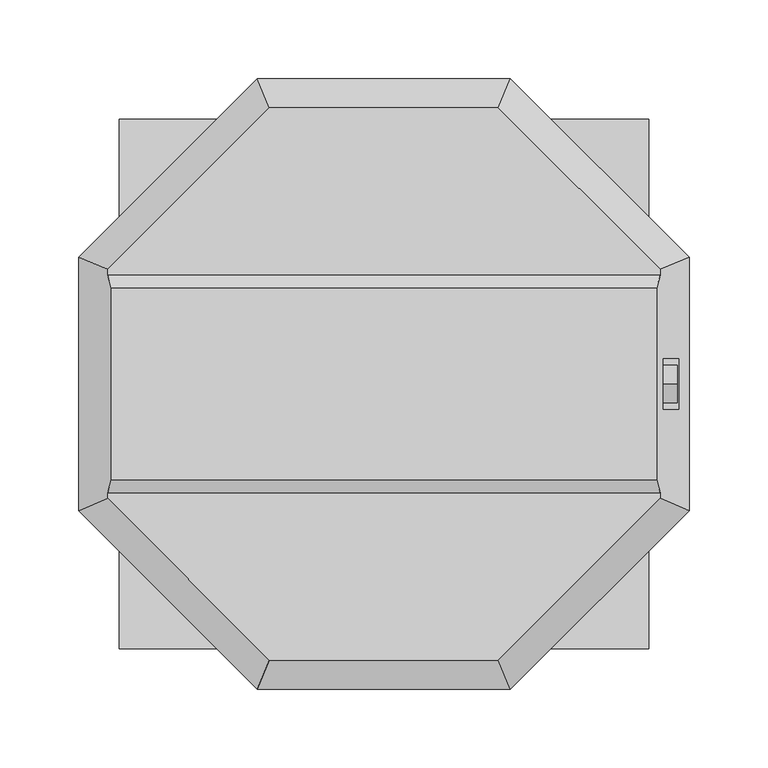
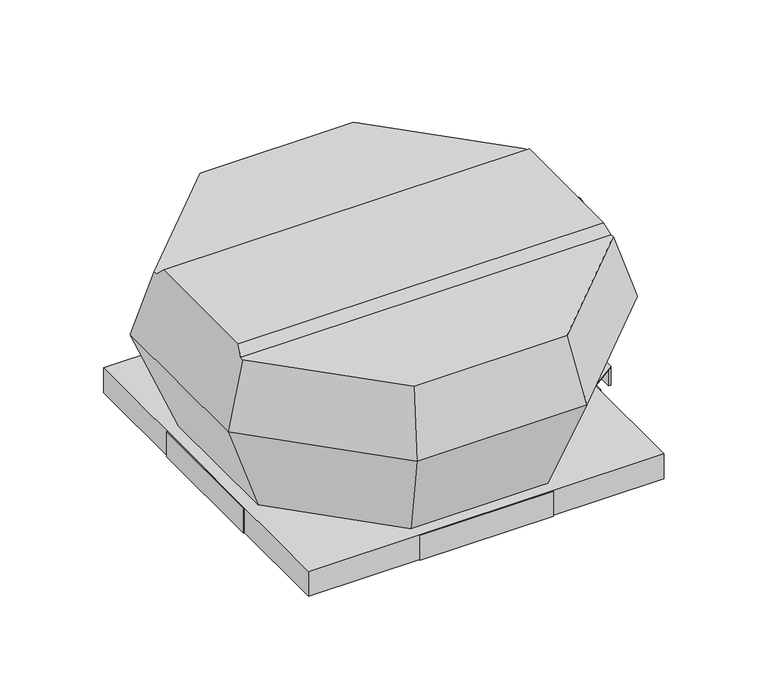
"""IFC4 building model written with IfcOpenShell, lengths in millimetres: unitary equipment geometry, VE-Wentylator-ParaForma-Harmann-VIVER_PS-Wywiewny : 2-225/900S."""

from ifc_helpers import new_model, si_unit, point, frame, frame_2d, origin, place, context, project, spatial, circle_curve, trimmed, segment, composite_curve, outline, extrude, faceted_brep, source, transform, mapped, element, save


def unitary_equipment_f8658a9e(model_context):
    return source(origin(), model_context, "Body", "SolidModel", [
        faceted_brep([(173.5597397, -61.0, 166.2), (173.5597397, 61.0, 166.2), (-173.5597397, 61.0, 166.2), (-173.5597397, -61.0, 166.2), (175.9961687, 69.1, 158.1), (-175.9961687, 69.1, 158.1), (175.9961687, -69.1, 158.1), (-175.9961687, -69.1, 158.1), (72.9, -175.9961687, 158.1), (175.9961687, -72.9, 158.1), (-175.9961687, -72.9, 158.1), (-72.9, -175.9961687, 158.1), (175.9961687, 72.9, 158.1), (72.9, 175.9961687, 158.1), (-72.9, 175.9961687, 158.1), (-175.9961687, 72.9, 158.1), (80.55, -194.4649024, 96.7), (194.4649024, -80.55, 96.7), (194.4649024, 80.55, 96.7), (187.7872821, -16.0, 118.9), (177.8610897, -16.0, 151.9), (177.8610897, 16.0, 151.9), (187.7872821, 16.0, 118.9), (80.55, 194.4649024, 96.7), (-80.55, 194.4649024, 96.7), (-194.4649024, 80.55, 96.7), (-194.4649024, -80.55, 96.7), (-80.55, -194.4649024, 96.7), (176.8, -16.0, 118.9), (176.8, 16.0, 118.9), (176.8, 16.0, 151.9), (176.8, -16.0, 151.9), (65.1, -157.1653029, 1.0), (-65.1, -157.1653029, 1.0), (-157.1653029, -65.1, 1.0), (-157.1653029, 65.1, 1.0), (-65.1, 157.1653029, 1.0), (65.1, 157.1653029, 1.0), (157.1653029, 65.1, 1.0), (157.1653029, -65.1, 1.0)], [[[0, 1, 2, 3]], [[1, 4, 5, 2]], [[6, 0, 3, 7]], [[8, 9, 6, 7, 10, 11]], [[12, 13, 14, 15, 5, 4]], [[9, 8, 16, 17]], [[9, 17, 18, 12, 4, 1, 0, 6], [19, 20, 21, 22]], [[13, 12, 18, 23]], [[14, 13, 23, 24]], [[15, 14, 24, 25]], [[15, 25, 26, 10, 7, 3, 2, 5]], [[11, 10, 26, 27]], [[8, 11, 27, 16]], [[28, 29, 30, 31]], [[28, 31, 20, 19]], [[31, 30, 21, 20]], [[30, 29, 22, 21]], [[29, 28, 19, 22]], [[32, 33, 34, 35, 36, 37, 38, 39]], [[32, 39, 17, 16]], [[39, 38, 18, 17]], [[38, 37, 23, 18]], [[37, 36, 24, 23]], [[36, 35, 25, 24]], [[35, 34, 26, 25]], [[34, 33, 27, 26]], [[33, 32, 16, 27]]]),
        faceted_brep([(167.6, 167.6, -24.0), (167.6, 167.6, 0.0), (-167.6, 167.6, 0.0), (-167.6, 167.6, -24.0), (168.6, 168.6, 1.0), (168.6, 168.6, -24.0), (-168.6, 168.6, -24.0), (-168.6, 168.6, 1.0), (-167.6, -167.6, 0.0), (-167.6, -167.6, -24.0), (-168.6, -168.6, -24.0), (-168.6, -168.6, 1.0), (167.6, -167.6, 0.0), (167.6, -167.6, -24.0), (168.6, -168.6, -24.0), (168.6, -168.6, 1.0)], [[[0, 1, 2, 3]], [[4, 5, 6, 7]], [[3, 2, 8, 9]], [[7, 6, 10, 11]], [[9, 8, 12, 13]], [[11, 10, 14, 15]], [[13, 12, 1, 0]], [[5, 14, 10, 6], [3, 9, 13, 0]], [[15, 14, 5, 4]], [[7, 11, 15, 4]], [[1, 12, 8, 2]]]),
        extrude(outline(composite_curve([segment(trimmed(circle_curve(frame_2d((0.0, 136.7)), 12.0), [point((0.0, 148.7))], [point((0.0, 124.7))], False, "CARTESIAN"), True, "CONTINUOUS"), segment(trimmed(circle_curve(frame_2d((0.0, 136.7)), 12.0), [point((0.0, 124.7))], [point((0.0, 148.7))], False, "CARTESIAN"), True, "CONTINUOUS")], self_intersect=False)), frame((176.8, 0.0, 0.0), z_axis=(1.0, 0.0, 0.0), x_axis=(0.0, 1.0, 0.0)), (0.0, 0.0, 1.0), 10.0),
        faceted_brep([(-168.6, -63.3, -24.0), (-169.6, -63.3, -24.0), (-169.6, 63.3, -24.0), (-168.6, 63.3, -24.0), (-168.6, -63.3, 1.0), (-168.6, 63.3, 1.0), (-169.6, 63.3, 1.0), (-169.6, -63.3, 1.0)], [[[0, 1, 2, 3]], [[4, 5, 6, 7]], [[1, 0, 4, 7]], [[2, 1, 7, 6]], [[3, 2, 6, 5]], [[0, 3, 5, 4]]]),
        faceted_brep([(169.6, -63.3, -24.0), (168.6, -63.3, -24.0), (168.6, 63.3, -24.0), (169.6, 63.3, -24.0), (169.6, 63.3, 1.0), (168.6, 63.3, 1.0), (168.6, -63.3, 1.0), (169.6, -63.3, 1.0), (169.6, -54.8, 1.0), (193.6, -38.0, 1.0), (193.6, 38.0, 1.0), (169.6, 54.8, 1.0), (169.6, 54.8, 0.0), (169.6, -54.8, 0.0), (193.6, 38.0, 0.0), (191.5, 38.0, 0.0), (191.5, -38.0, 0.0), (193.6, -38.0, 0.0), (193.6, -38.0, -18.0), (193.6, 38.0, -18.0), (191.5, -38.0, -18.0), (191.5, 38.0, -18.0)], [[[0, 1, 2, 3]], [[4, 5, 6, 7, 8, 9, 10, 11]], [[1, 0, 7, 6]], [[2, 1, 6, 5]], [[3, 2, 5, 4]], [[0, 3, 4, 11, 12, 13, 8, 7]], [[12, 14, 15, 16, 17, 13]], [[14, 12, 11, 10]], [[10, 9, 17, 18, 19, 14]], [[13, 17, 9, 8]], [[20, 16, 15, 21]], [[16, 20, 18, 17]], [[21, 15, 14, 19]], [[20, 21, 19, 18]]]),
        faceted_brep([(63.3, 168.6, -24.0), (-63.3, 168.6, -24.0), (-63.3, 169.6, -24.0), (63.3, 169.6, -24.0), (63.3, 168.6, 1.0), (63.3, 169.6, 1.0), (-63.3, 169.6, 1.0), (-63.3, 168.6, 1.0)], [[[0, 1, 2, 3]], [[4, 5, 6, 7]], [[1, 0, 4, 7]], [[2, 1, 7, 6]], [[3, 2, 6, 5]], [[0, 3, 5, 4]]]),
        faceted_brep([(63.3, -169.6, -24.0), (-63.3, -169.6, -24.0), (-63.3, -168.6, -24.0), (63.3, -168.6, -24.0), (63.3, -169.6, 1.0), (63.3, -168.6, 1.0), (-63.3, -168.6, 1.0), (-63.3, -169.6, 1.0)], [[[0, 1, 2, 3]], [[4, 5, 6, 7]], [[1, 0, 4, 7]], [[2, 1, 7, 6]], [[3, 2, 6, 5]], [[0, 3, 5, 4]]]),
    ])


if __name__ == "__main__":
    model = new_model("IFC4")
    model_context = context("Model", 3, world=origin())
    ifc_project = project(units=[si_unit("LENGTHUNIT", "METRE", prefix="MILLI")], contexts=[model_context])
    site = spatial("IfcSite", under=ifc_project)
    building = spatial("IfcBuilding", under=site)
    placement = place(None, origin())
    unitary_equipment_shape = unitary_equipment_f8658a9e(model_context)
    element("IfcUnitaryEquipment", 1, ObjectType="VE-Wentylator-ParaForma-Harmann-VIVER_PS-Wywiewny : 2-225/900S", at=placement, inside=building, context=model_context, shape_type="MappedRepresentation", body=[
        mapped(unitary_equipment_shape, transform((0.0, 0.0, 0.0), x_axis=(1.0, 0.0, 0.0), y_axis=(0.0, 1.0, 0.0), z_axis=(0.0, 0.0, 1.0))),
    ])
    save(model, "model.ifc")
